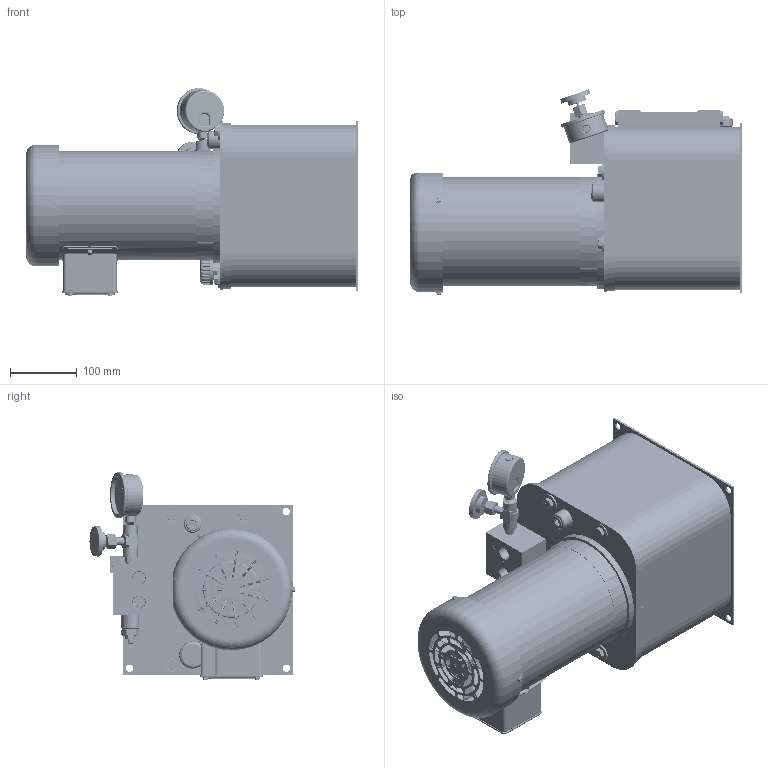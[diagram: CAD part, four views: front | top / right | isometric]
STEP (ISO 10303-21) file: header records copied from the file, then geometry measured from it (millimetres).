
FILE_DESCRIPTION (( 'STEP AP214' ), '1' );
FILE_NAME ('T2V-05-X-NN--059.STEP', '2021-08-25T15:25:44', ( '' ), ( '' ), 'SwSTEP 2.0', 'SolidWorks 2020', '' );
FILE_SCHEMA (( 'AUTOMOTIVE_DESIGN' ));
Length unit declared in the file: inch
Products named in the file (1): T2V-05-X-NN--059
Bounding box: 498.41 x 307.81 x 311.84 mm (x, y, z)
Surface area: 1591993.6 mm2 (no closed solid volume)
Topology: 0 solids, 87 shells, 7713 faces, 19511 edges, 12016 vertices
Faces by surface type: plane 2409, cylinder 2242, bspline 1326, cone 794, torus 648, sphere 294
Entity records: 447032 total; most frequent: CARTESIAN_POINT 178845, ORIENTED_EDGE 38536, DIRECTION 29481, EDGE_CURVE 19287, VERTEX_POINT 11999, AXIS2_PLACEMENT_3D 11323, EDGE_LOOP 8242, DIMENSIONAL_EXPONENTS 7786
